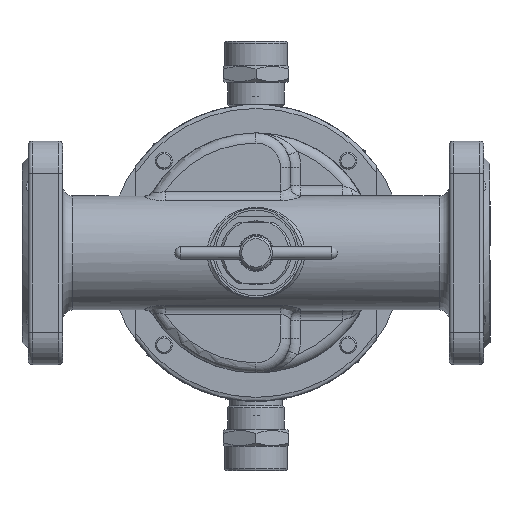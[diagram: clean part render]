
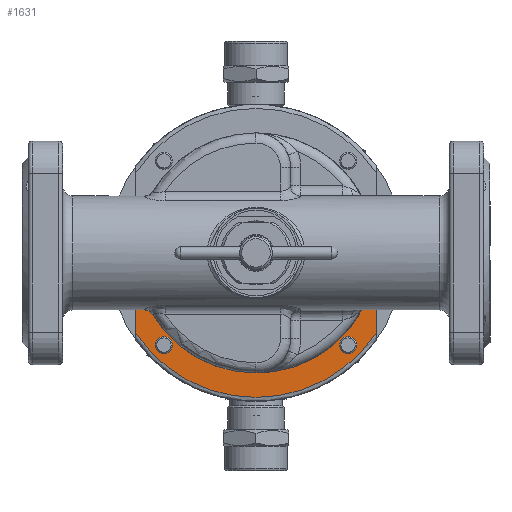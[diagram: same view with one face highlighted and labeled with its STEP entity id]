
A CAD part, front view. The second image highlights one B-rep face of the part: STEP entity #1631.
In plain terms, the highlighted planar face has unit normal (0, -1, 0).
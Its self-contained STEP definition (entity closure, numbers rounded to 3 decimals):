
#1631=ADVANCED_FACE('',(#17386,#17388,#17390),#17392,.F.);
#17386=FACE_BOUND('',#17387,.T.);
#17387=EDGE_LOOP('',(#29627));
#17388=FACE_BOUND('',#17389,.T.);
#17389=EDGE_LOOP('',(#29628));
#17390=FACE_OUTER_BOUND('',#17391,.T.);
#17391=EDGE_LOOP('',(#29629,#29630,#29631,#29632));
#17392=PLANE('',#17393);
#17393=AXIS2_PLACEMENT_3D('',#17394,#17395,#17396);
#17394=CARTESIAN_POINT('',(0.,39.5,0.));
#17395=DIRECTION('',(0.,1.,0.));
#17396=DIRECTION('',(-1.,0.,0.));
#29627=ORIENTED_EDGE('',*,*,#36882,.T.);
#29628=ORIENTED_EDGE('',*,*,#36883,.T.);
#29629=ORIENTED_EDGE('',*,*,#36884,.F.);
#29630=ORIENTED_EDGE('',*,*,#36859,.F.);
#29631=ORIENTED_EDGE('',*,*,#36885,.F.);
#29632=ORIENTED_EDGE('',*,*,#36865,.F.);
#36859=EDGE_CURVE('',#44534,#44536,#44537,.T.);
#36865=EDGE_CURVE('',#44544,#44546,#44547,.T.);
#36882=EDGE_CURVE('',#44572,#44572,#44573,.T.);
#36883=EDGE_CURVE('',#44574,#44574,#44575,.T.);
#36884=EDGE_CURVE('',#44536,#44544,#44576,.T.);
#36885=EDGE_CURVE('',#44546,#44534,#44577,.T.);
#44534=VERTEX_POINT('',#68963);
#44536=VERTEX_POINT('',#68967);
#44537=LINE('',#68968,#68969);
#44544=VERTEX_POINT('',#69040);
#44546=VERTEX_POINT('',#69098);
#44547=LINE('',#69099,#69100);
#44572=VERTEX_POINT('',#69223);
#44573=CIRCLE('',#69224,4.188);
#44574=VERTEX_POINT('',#69228);
#44575=CIRCLE('',#69229,4.188);
#44576=CIRCLE('',#69233,71.);
#44577=CIRCLE('',#69237,59.);
#68963=CARTESIAN_POINT('',(59.,39.5,0.));
#68967=CARTESIAN_POINT('',(59.,39.5,-39.497));
#68968=CARTESIAN_POINT('',(59.,39.5,0.));
#68969=VECTOR('',#68970,1.);
#68970=DIRECTION('',(0.,0.,-1.));
#69040=CARTESIAN_POINT('',(-59.,39.5,-39.497));
#69098=CARTESIAN_POINT('',(-59.,39.5,0.));
#69099=CARTESIAN_POINT('',(-59.,39.5,-39.497));
#69100=VECTOR('',#69101,1.);
#69101=DIRECTION('',(0.,0.,1.));
#69223=CARTESIAN_POINT('',(-49.443,39.5,-45.255));
#69224=AXIS2_PLACEMENT_3D('',#69225,#69226,#69227);
#69225=CARTESIAN_POINT('',(-45.255,39.5,-45.255));
#69226=DIRECTION('',(0.,1.,0.));
#69227=DIRECTION('',(-1.,0.,0.));
#69228=CARTESIAN_POINT('',(41.067,39.5,-45.255));
#69229=AXIS2_PLACEMENT_3D('',#69230,#69231,#69232);
#69230=CARTESIAN_POINT('',(45.255,39.5,-45.255));
#69231=DIRECTION('',(0.,1.,0.));
#69232=DIRECTION('',(-1.,0.,0.));
#69233=AXIS2_PLACEMENT_3D('',#69234,#69235,#69236);
#69234=CARTESIAN_POINT('',(0.,39.5,0.));
#69235=DIRECTION('',(0.,1.,0.));
#69236=DIRECTION('',(0.831,0.,-0.556));
#69237=AXIS2_PLACEMENT_3D('',#69238,#69239,#69240);
#69238=CARTESIAN_POINT('',(0.,39.5,0.));
#69239=DIRECTION('',(0.,-1.,0.));
#69240=DIRECTION('',(-1.,0.,0.));
